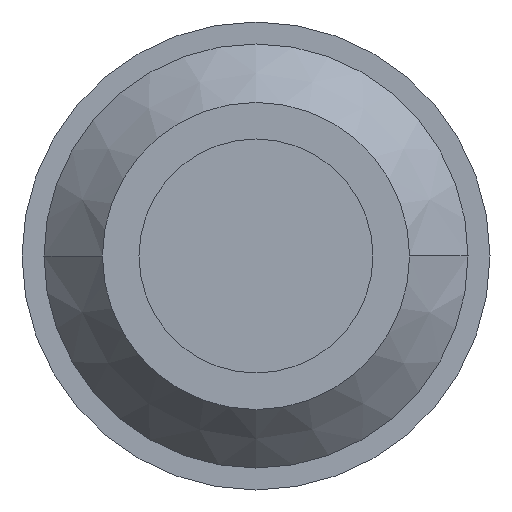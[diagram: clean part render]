
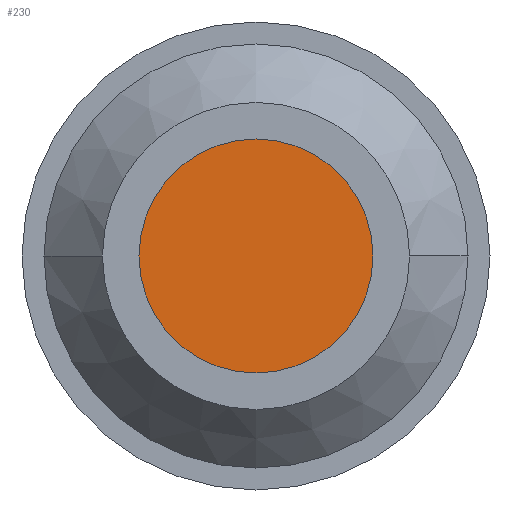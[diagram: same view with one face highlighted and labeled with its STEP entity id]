
A CAD part, front view. The second image highlights one B-rep face of the part: STEP entity #230.
In plain terms, the highlighted planar face has unit normal (0, -1, 0).
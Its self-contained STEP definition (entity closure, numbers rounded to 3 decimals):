
#8 = AXIS2_PLACEMENT_3D ( 'NONE', #155, #297, #313 ) ;
#80 = CARTESIAN_POINT ( 'NONE',  ( -4., -1.5, 0. ) ) ;
#93 = EDGE_LOOP ( 'NONE', ( #127, #311 ) ) ;
#95 = FACE_OUTER_BOUND ( 'NONE', #93, .T. ) ;
#123 = PLANE ( 'NONE',  #8 ) ;
#127 = ORIENTED_EDGE ( 'NONE', *, *, #273, .T. ) ;
#155 = CARTESIAN_POINT ( 'NONE',  ( 4., -1.5, 0. ) ) ;
#202 = CIRCLE ( 'NONE', #218, 4. ) ;
#218 = AXIS2_PLACEMENT_3D ( 'NONE', #300, #236, #305 ) ;
#230 = ADVANCED_FACE ( 'NONE', ( #95 ), #123, .T. ) ;
#236 = DIRECTION ( 'NONE',  ( 0., -1., 0. ) ) ;
#258 = VERTEX_POINT ( 'NONE', #315 ) ;
#265 = DIRECTION ( 'NONE',  ( 0., -1., 0. ) ) ;
#273 = EDGE_CURVE ( 'NONE', #258, #330, #202, .T. ) ;
#277 = DIRECTION ( 'NONE',  ( 1., 0., 0. ) ) ;
#297 = DIRECTION ( 'NONE',  ( 0., -1., 0. ) ) ;
#300 = CARTESIAN_POINT ( 'NONE',  ( 0., -1.5, 0. ) ) ;
#305 = DIRECTION ( 'NONE',  ( 1., 0., 0. ) ) ;
#311 = ORIENTED_EDGE ( 'NONE', *, *, #319, .T. ) ;
#313 = DIRECTION ( 'NONE',  ( 1., 0., 0. ) ) ;
#315 = CARTESIAN_POINT ( 'NONE',  ( 4., -1.5, 0. ) ) ;
#319 = EDGE_CURVE ( 'NONE', #330, #258, #363, .T. ) ;
#330 = VERTEX_POINT ( 'NONE', #80 ) ;
#331 = AXIS2_PLACEMENT_3D ( 'NONE', #379, #265, #277 ) ;
#363 = CIRCLE ( 'NONE', #331, 4. ) ;
#379 = CARTESIAN_POINT ( 'NONE',  ( 0., -1.5, 0. ) ) ;
